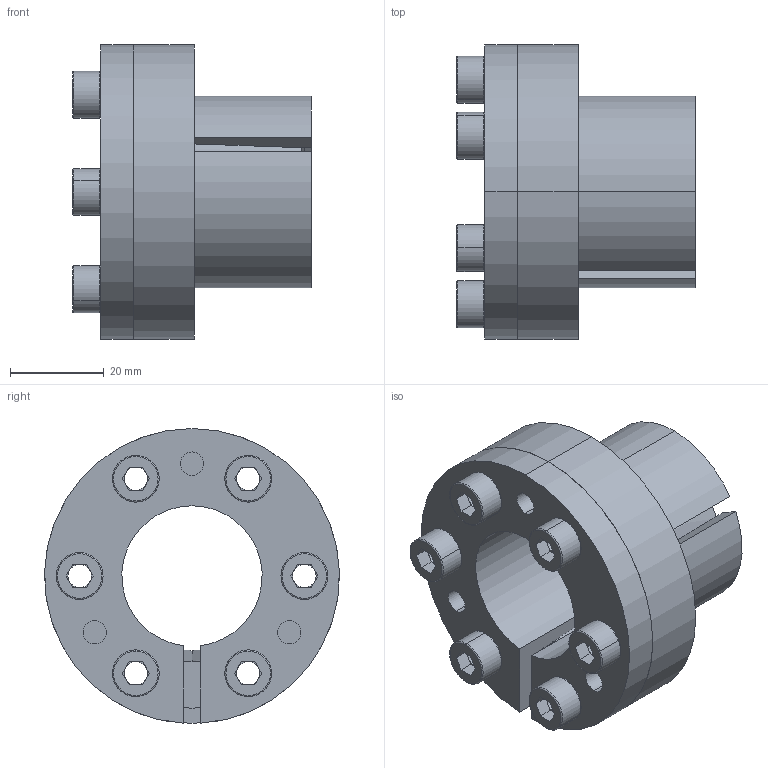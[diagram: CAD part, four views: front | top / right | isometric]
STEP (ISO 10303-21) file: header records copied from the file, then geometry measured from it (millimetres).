
FILE_DESCRIPTION (( 'STEP AP203' ), '1' );
FILE_NAME ('T-30-41.STEP', '2017-10-13T08:10:44', ( 'MYCOM' ), ( '' ), 'SwSTEP 2.0', 'SolidWorks 2015', '' );
FILE_SCHEMA (( 'CONFIG_CONTROL_DESIGN' ));
Length unit declared in the file: millimetre
Products named in the file (1): T-30-41
Bounding box: 51 x 63 x 63 mm (x, y, z)
Surface area: 34143.7 mm2 (no closed solid volume)
Topology: 0 solids, 9 shells, 172 faces, 451 edges, 284 vertices
Faces by surface type: plane 84, cylinder 59, torus 24, cone 5
Entity records: 5428 total; most frequent: DIRECTION 1015, CARTESIAN_POINT 923, ORIENTED_EDGE 831, EDGE_CURVE 451, AXIS2_PLACEMENT_3D 395, VERTEX_POINT 284, VECTOR 225, LINE 225
